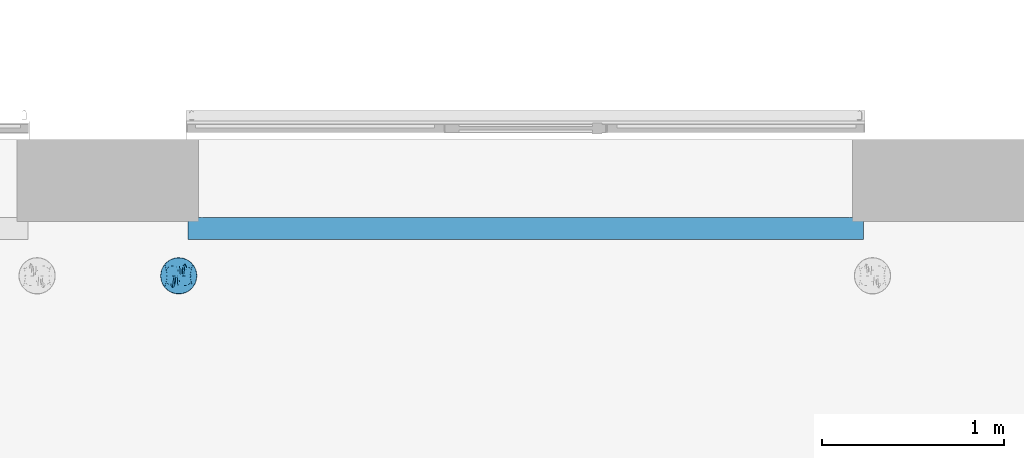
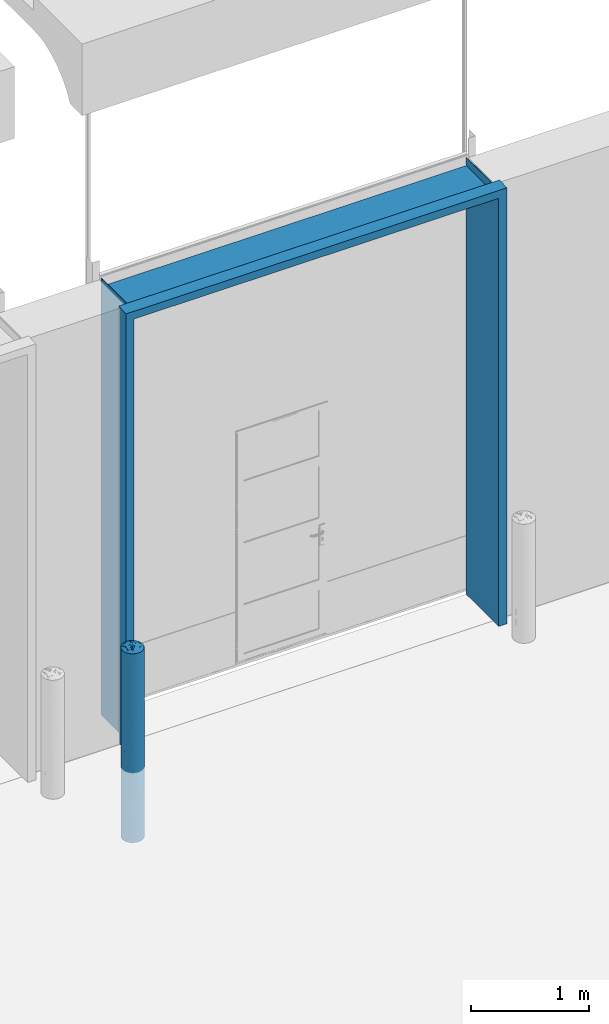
# One storey, part 46 of 77: 2 discrete accessories.
"""IFC2X3 building model written with IfcOpenShell, lengths in millimetres."""

from ifc_helpers import new_model, entity, si_unit, converted_unit, derived_unit, direction, frame, origin, place, context, subcontext, project, spatial, faceted_brep, source, transform, mapped, material, type_object, type_shapes, element, save


model = new_model("IFC2X3")

# Units and contexts
model_context = context("Model", 3, precision=0.01, world=origin(), true_north=direction((6.12303176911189e-17, 1.0)))
body_context = subcontext(model_context, "Body", "Model", "MODEL_VIEW")
ifc_project = project(units=[si_unit("LENGTHUNIT", "METRE", prefix="MILLI"), si_unit("AREAUNIT", "SQUARE_METRE"), si_unit("VOLUMEUNIT", "CUBIC_METRE"), converted_unit("PLANEANGLEUNIT", "DEGREE", entity("IfcRatioMeasure", 0.0174532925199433), si_unit("PLANEANGLEUNIT", "RADIAN"), dimensions=[0, 0, 0, 0, 0, 0, 0]), si_unit("MASSUNIT", "GRAM", prefix="KILO"), derived_unit("MASSDENSITYUNIT", [(si_unit("MASSUNIT", "GRAM", prefix="KILO"), 1), (si_unit("LENGTHUNIT", "METRE"), -3)]), si_unit("TIMEUNIT", "SECOND"), si_unit("FREQUENCYUNIT", "HERTZ"), si_unit("THERMODYNAMICTEMPERATUREUNIT", "DEGREE_CELSIUS"), derived_unit("THERMALTRANSMITTANCEUNIT", [(si_unit("MASSUNIT", "GRAM", prefix="KILO"), 1), (si_unit("THERMODYNAMICTEMPERATUREUNIT", "KELVIN"), -1), (si_unit("TIMEUNIT", "SECOND"), -3)]), derived_unit("VOLUMETRICFLOWRATEUNIT", [(si_unit("LENGTHUNIT", "METRE"), 3), (si_unit("TIMEUNIT", "SECOND"), -1)]), si_unit("ELECTRICCURRENTUNIT", "AMPERE"), si_unit("ELECTRICVOLTAGEUNIT", "VOLT"), si_unit("POWERUNIT", "WATT"), si_unit("FORCEUNIT", "NEWTON", prefix="KILO"), si_unit("ILLUMINANCEUNIT", "LUX"), si_unit("LUMINOUSFLUXUNIT", "LUMEN"), si_unit("LUMINOUSINTENSITYUNIT", "CANDELA"), derived_unit("USERDEFINED", [(si_unit("MASSUNIT", "GRAM", prefix="KILO"), -1), (si_unit("LENGTHUNIT", "METRE"), -2), (si_unit("TIMEUNIT", "SECOND"), 3), (si_unit("LUMINOUSFLUXUNIT", "LUMEN"), 1)]), derived_unit("LINEARVELOCITYUNIT", [(si_unit("LENGTHUNIT", "METRE"), 1), (si_unit("TIMEUNIT", "SECOND"), -1)]), si_unit("PRESSUREUNIT", "PASCAL"), derived_unit("USERDEFINED", [(si_unit("LENGTHUNIT", "METRE"), -2), (si_unit("MASSUNIT", "GRAM", prefix="KILO"), 1), (si_unit("TIMEUNIT", "SECOND"), -2)])], contexts=[model_context])

# Site, building, storey
site_placement = place(None, origin())
site = spatial("IfcSite", under=ifc_project, at=site_placement, Name="Default", CompositionType="ELEMENT")
building_placement = place(site_placement, origin())
building = spatial("IfcBuilding", under=site, at=building_placement, CompositionType="ELEMENT")
storey_placement = place(building_placement, origin())
storey = spatial("IfcBuildingStorey", under=building, at=storey_placement, Name="1. KORRUS", CompositionType="ELEMENT", Elevation=0.0)

# Discrete accessories
ifc_material = material(Name="Default New Material-must-varv")
discrete_accessory_type_1 = type_object("IfcDiscreteAccessoryType", Name="ukse-pollar", material=ifc_material)
shared_shape_1 = source(origin(), body_context, "Body", "Brep", [
    faceted_brep([(83.7498316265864, 0.0, 1211.3118064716), (91.8749158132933, 0.0, 1205.6559032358), (100.0, 0.0, 1200.0), (97.6882221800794, 13.1107435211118, 1200.0), (95.8287421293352, 23.6563789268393, 1200.0), (93.969262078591, 34.2020143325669, 1200.0), (76.9390417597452, 0.0, 1216.05282423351), (63.3022221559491, 75.4406506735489, 1200.0), (62.8416939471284, 39.8030161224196, 1218.4526620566), (69.2436158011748, 37.0764107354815, 1215.9880775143), (-97.6882221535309, 13.110743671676, 1200.0), (-100.0, 0.0, 1200.0), (-91.8749158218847, 0.0, 1205.65590322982), (-83.7498316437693, 0.0, 1211.31180645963), (-76.9390417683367, 0.0, 1216.05282422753), (-93.9692620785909, 34.2020143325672, 1200.0), (-95.8287421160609, 23.6563790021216, 1200.0), (61.6281008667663, 0.0, 1224.0406107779), (76.604444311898, 64.278760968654, 1200.0), (85.2868531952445, 49.2403876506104, 1200.0), (-3.54862814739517, 32.9400963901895, 1234.4920463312), (9.03191194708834, 0.0, 1237.09268012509), (4.40844307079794, 58.3778316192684, 1226.30016518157), (54.6170308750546, 47.6944043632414, 1219.50624940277), (44.627798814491, 0.0, 1230.53414834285), (25.5588463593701, 59.4119136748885, 1223.53680168), (33.6824088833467, 92.5416578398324, 1200.0), (17.3648177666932, 98.4807753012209, 1200.0), (-61.6281008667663, 0.0, 1224.0406107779), (-85.2868531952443, 49.2403876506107, 1200.0), (-70.128251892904, 0.0, 1220.79384199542), (36.1276477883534, 0.0, 1233.78091712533), (43.4209832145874, 50.3665618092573, 1222.6504135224), (70.128251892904, 0.0, 1220.79384199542), (-76.6044443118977, 64.2787609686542, 1200.0), (50.0, 86.6025403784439, 1200.0), (-50.0, 86.6025403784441, 1200.0), (-54.4185160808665, 48.7244133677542, 1219.21017541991), (-43.392270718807, 54.0995868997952, 1221.20165944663), (27.095735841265, 0.0, 1234.88483812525), (35.2622305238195, 66.2009236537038, 1218.09661192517), (-62.8416940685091, 39.8030246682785, 1218.45265938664), (-63.3022221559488, 75.4406506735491, 1200.0), (18.0638238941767, 0.0, 1235.98875912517), (18.4754636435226, 34.2574490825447, 1233.0588958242), (-69.2436179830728, 37.0764202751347, 1215.98807356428), (-53.1279498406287, 0.0, 1227.28737956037), (15.0400910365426, 63.9380091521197, 1223.05106581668), (0.0, 98.4807753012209, 1200.0), (-33.6824088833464, 92.5416578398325, 1200.0), (-31.0939161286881, 53.155099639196, 1224.97270928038), (-21.496736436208, 71.3818883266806, 1218.36002279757), (-27.095735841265, 0.0, 1234.88483812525), (-36.1276477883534, 0.0, 1233.78091712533), (-13.9644320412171, 48.8776365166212, 1229.32055829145), (53.1279498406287, 0.0, 1227.28737956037), (-44.627798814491, 0.0, 1230.53414834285), (-18.0638238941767, 0.0, 1235.98875912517), (-9.03191194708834, 0.0, 1237.09268012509), (-9.80597558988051, 78.5292492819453, 1215.62108797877), (-17.3648177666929, 98.480775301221, 1200.0), (0.0, 0.0, 1238.19660112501), (-97.6882221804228, -13.1107435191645, 1200.0), (-95.8287421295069, -23.6563789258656, 1200.0), (-93.9692620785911, -34.2020143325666, 1200.0), (-63.3022221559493, -75.4406506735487, 1200.0), (-62.8416938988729, -39.8030161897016, 1218.45266205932), (-69.2436157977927, -37.076410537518, 1215.98807757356), (97.6882221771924, -13.110743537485, 1200.0), (93.9692620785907, -34.2020143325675, 1200.0), (95.8287421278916, -23.6563789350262, 1200.0), (-76.6044443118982, -64.2787609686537, 1200.0), (-85.2868531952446, -49.2403876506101, 1200.0), (3.54862829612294, -32.9400954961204, 1234.4920465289), (-4.40844201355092, -58.3778322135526, 1226.30016496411), (-54.6170308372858, -47.6944042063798, 1219.50624947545), (-25.5588462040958, -59.4119134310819, 1223.53680181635), (-33.682408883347, -92.5416578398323, 1200.0), (-17.3648177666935, -98.4807753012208, 1200.0), (-43.4209830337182, -50.3665619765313, 1222.65041351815), (-50.0, -86.6025403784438, 1200.0), (62.8416939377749, -39.803016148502, 1218.45266205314), (54.4185175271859, -48.7244091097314, 1219.21017640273), (63.3022221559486, -75.4406506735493, 1200.0), (85.2868531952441, -49.240387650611, 1200.0), (76.6044443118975, -64.2787609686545, 1200.0), (50.0, -86.6025403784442, 1200.0), (43.3922717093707, -54.0995849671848, 1221.20165990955), (-35.2622303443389, -66.2009242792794, 1218.09661165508), (-18.475463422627, -34.2574489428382, 1233.05889588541), (69.2436157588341, -37.0764105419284, 1215.98807759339), (-15.0400904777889, -63.9380089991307, 1223.05106595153), (0.0, -98.4807753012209, 1200.0), (33.6824088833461, -92.5416578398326, 1200.0), (31.0939160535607, -53.155100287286, 1224.97270904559), (21.4967358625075, -71.3818881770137, 1218.3600229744), (13.9644325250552, -48.8776338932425, 1229.32055915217), (9.80597229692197, -78.5292495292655, 1215.62108807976), (17.3648177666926, -98.480775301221, 1200.0), (0.0, 0.0, 1200.0)], [[[0, 1, 2, 3, 4, 5, 6]], [[7, 8, 9]], [[10, 11, 12, 13, 14, 15, 16]], [[9, 17, 18]], [[17, 19, 18]], [[20, 21, 22]], [[8, 23, 24]], [[25, 26, 27]], [[28, 29, 30]], [[19, 6, 5]], [[31, 23, 32]], [[14, 30, 29]], [[6, 19, 33]], [[29, 28, 34]], [[32, 23, 35]], [[36, 37, 38]], [[39, 32, 40]], [[29, 15, 14]], [[41, 37, 42]], [[43, 44, 21]], [[33, 19, 17]], [[45, 28, 46]], [[42, 37, 36]], [[45, 46, 41]], [[25, 43, 39]], [[47, 22, 44]], [[26, 40, 35]], [[47, 27, 48]], [[49, 50, 51]], [[52, 38, 53]], [[22, 54, 20]], [[39, 31, 32]], [[25, 40, 26]], [[24, 55, 8]], [[35, 23, 7]], [[23, 31, 24]], [[9, 8, 55]], [[23, 8, 7]], [[37, 41, 56]], [[51, 50, 54]], [[38, 52, 50]], [[57, 50, 52]], [[50, 57, 54]], [[38, 49, 36]], [[54, 57, 58]], [[48, 59, 22]], [[38, 37, 53]], [[49, 38, 50]], [[56, 41, 46]], [[56, 53, 37]], [[45, 42, 34]], [[17, 9, 55]], [[7, 9, 18]], [[42, 45, 41]], [[28, 45, 34]], [[47, 44, 25]], [[25, 44, 43]], [[22, 21, 44]], [[25, 27, 47]], [[51, 59, 60]], [[47, 48, 22]], [[39, 40, 25]], [[35, 40, 32]], [[58, 20, 54]], [[20, 58, 61]], [[21, 20, 61]], [[59, 51, 54]], [[49, 51, 60]], [[22, 59, 54]], [[48, 60, 59]], [[13, 12, 11, 62, 63, 64, 14]], [[65, 66, 67]], [[68, 2, 1, 0, 6, 69, 70]], [[67, 28, 71]], [[28, 72, 71]], [[73, 58, 74]], [[66, 75, 56]], [[76, 77, 78]], [[79, 75, 80]], [[53, 75, 79]], [[81, 82, 83]], [[6, 84, 69]], [[84, 17, 85]], [[86, 82, 87]], [[17, 84, 33]], [[52, 79, 88]], [[33, 84, 6]], [[72, 14, 64]], [[57, 89, 58]], [[14, 72, 30]], [[30, 72, 28]], [[90, 17, 55]], [[83, 82, 86]], [[90, 55, 81]], [[76, 57, 52]], [[91, 74, 89]], [[77, 88, 80]], [[91, 78, 92]], [[93, 94, 95]], [[39, 87, 31]], [[74, 96, 73]], [[52, 53, 79]], [[76, 88, 77]], [[56, 46, 66]], [[80, 75, 65]], [[75, 53, 56]], [[67, 66, 46]], [[75, 66, 65]], [[82, 81, 24]], [[95, 94, 96]], [[87, 39, 94]], [[43, 94, 39]], [[94, 43, 96]], [[87, 93, 86]], [[96, 43, 21]], [[92, 97, 74]], [[87, 82, 31]], [[93, 87, 94]], [[24, 81, 55]], [[24, 31, 82]], [[90, 83, 85]], [[28, 67, 46]], [[65, 67, 71]], [[83, 90, 81]], [[17, 90, 85]], [[91, 89, 76]], [[76, 89, 57]], [[74, 58, 89]], [[76, 78, 91]], [[95, 97, 98]], [[91, 92, 74]], [[52, 88, 76]], [[80, 88, 79]], [[21, 73, 96]], [[73, 21, 61]], [[58, 73, 61]], [[97, 95, 96]], [[93, 95, 98]], [[74, 97, 96]], [[92, 98, 97]], [[99, 15, 29]], [[99, 29, 34]], [[99, 34, 42]], [[99, 42, 36]], [[99, 36, 49]], [[99, 49, 60]], [[99, 60, 48]], [[99, 16, 15]], [[99, 10, 16]], [[99, 11, 10]], [[99, 48, 27]], [[99, 27, 26]], [[99, 26, 35]], [[99, 35, 7]], [[99, 7, 18]], [[99, 18, 19]], [[99, 19, 5]], [[99, 5, 4]], [[99, 4, 3]], [[99, 3, 2]], [[99, 2, 68]], [[99, 62, 11]], [[99, 63, 62]], [[99, 64, 63]], [[99, 72, 64]], [[99, 71, 72]], [[99, 65, 71]], [[99, 80, 65]], [[99, 77, 80]], [[99, 78, 77]], [[99, 68, 70]], [[99, 70, 69]], [[99, 69, 84]], [[99, 84, 85]], [[99, 85, 83]], [[99, 83, 86]], [[99, 86, 93]], [[99, 93, 98]], [[99, 98, 92]], [[99, 92, 78]]]),
    faceted_brep([(25.8819045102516, -96.592582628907, 1200.0), (50.0, -86.6025403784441, 1200.0), (70.7106781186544, -70.7106781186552, 1200.0), (86.6025403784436, -50.0, 1200.0), (96.5925826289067, -25.8819045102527, 1200.0), (100.0, 0.0, 1200.0), (96.5925826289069, 25.8819045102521, 1200.0), (86.6025403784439, 50.0, 1200.0), (70.7106781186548, 70.7106781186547, 1200.0), (50.0, 86.6025403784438, 1200.0), (25.8819045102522, 96.5925826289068, 1200.0), (0.0, 100.0, 1200.0), (-25.8819045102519, 96.5925826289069, 1200.0), (-50.0, 86.602540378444, 1200.0), (-70.7106781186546, 70.7106781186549, 1200.0), (-86.6025403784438, 50.0, 1200.0), (-96.5925826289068, 25.8819045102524, 1200.0), (-100.0, 0.0, 1200.0), (-96.5925826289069, -25.8819045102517, 1200.0), (-86.6025403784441, -50.0, 1200.0), (-70.710678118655, -70.7106781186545, 1200.0), (-50.0, -86.6025403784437, 1200.0), (-25.8819045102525, -96.5925826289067, 1200.0), (0.0, -100.0, 1200.0), (0.0, 100.0, -750.0), (25.8819045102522, 96.5925826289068, -750.0), (50.0, 86.6025403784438, -750.0), (70.7106781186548, 70.7106781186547, -750.0), (86.6025403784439, 50.0, -750.0), (96.5925826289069, 25.8819045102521, -750.0), (100.0, 0.0, -750.0), (96.5925826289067, -25.8819045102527, -750.0), (86.6025403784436, -50.0, -750.0), (70.7106781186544, -70.7106781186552, -750.0), (50.0, -86.6025403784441, -750.0), (25.8819045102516, -96.592582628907, -750.0), (0.0, -100.0, -750.0), (-25.8819045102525, -96.5925826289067, -750.0), (-50.0, -86.6025403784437, -750.0), (-70.710678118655, -70.7106781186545, -750.0), (-86.6025403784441, -50.0, -750.0), (-96.5925826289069, -25.8819045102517, -750.0), (-100.0, 0.0, -750.0), (-96.5925826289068, 25.8819045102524, -750.0), (-86.6025403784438, 50.0, -750.0), (-70.7106781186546, 70.7106781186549, -750.0), (-50.0, 86.602540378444, -750.0), (-25.8819045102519, 96.5925826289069, -750.0), (-79.3353340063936, -60.8761429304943, 225.0), (-95.1291375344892, -30.8293235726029, 225.0), (-92.387953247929, -38.2683432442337, -285.980854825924), (-38.2683432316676, -92.3879532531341, -299.59510263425), (-60.8761428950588, -79.3353340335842, -151.214692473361), (55.4391010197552, -83.225633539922, 225.0), (79.335334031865, -60.8761428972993, 225.0), (60.8761429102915, -79.3353340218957, 601.214692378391), (-79.3353340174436, -60.8761429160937, 749.595102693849), (-13.0526192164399, -99.1444861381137, -151.214692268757), (13.0526192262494, -99.1444861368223, -269.40187286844), (4.65337325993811, -99.8916719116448, 225.0), (-19.6480455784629, -98.0507741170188, 225.0), (-38.2683432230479, -92.3879532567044, 749.595102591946), (-38.2683432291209, -92.387953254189, 225.0), (-79.3353340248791, -60.8761429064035, -299.595102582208), (-60.876142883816, -79.3353340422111, 601.214692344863), (79.335334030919, -60.8761428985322, -299.595102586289), (60.8761429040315, -79.3353340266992, -151.214692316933), (-98.5078583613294, -17.2105154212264, -334.254320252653), (-100.0, 0.0, 501.660929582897), (-100.0, 0.0, -51.6552314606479), (-92.3879532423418, -38.2683432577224, 735.980854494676), (-98.507858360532, -17.2105154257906, 784.254320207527), (100.0, 0.0, 501.659108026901), (95.1291375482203, -30.8293235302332, 225.0), (100.0, 0.0, -51.6591080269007), (-55.4391010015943, -83.2256335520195, 225.0), (38.2683432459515, -92.3879532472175, 749.595102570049), (-13.0526192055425, -99.1444861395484, 601.214692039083), (38.2683432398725, -92.3879532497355, -299.595102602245), (92.3879532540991, -38.2683432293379, 735.980854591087), (92.3879532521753, -38.2683432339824, -285.980854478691), (79.335334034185, -60.8761428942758, 749.595102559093), (98.5078583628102, -17.2105154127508, 784.254320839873), (13.0526192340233, -99.1444861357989, 719.401872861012), (98.5078583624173, -17.2105154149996, -334.254320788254), (38.268343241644, -92.3879532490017, 225.0), (98.5078583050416, 17.210515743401, -334.254323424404), (-79.3353340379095, 60.8761428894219, -299.595102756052), (-60.876142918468, 79.3353340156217, -151.214692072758), (79.3353338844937, 60.8761430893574, -299.595101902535), (13.0526191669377, 99.1444861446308, -151.214692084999), (38.2683431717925, 92.3879532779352, -299.595102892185), (19.6480455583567, 98.0507741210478, 225.0), (38.2683431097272, 92.3879533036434, 749.595103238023), (38.2683431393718, 92.3879532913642, 225.0), (-13.0526193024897, 99.1444861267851, 719.401872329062), (66.0410934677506, 75.0904386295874, 225.000002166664), (60.8761427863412, 79.3353341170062, -151.214692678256), (-13.0526192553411, 99.1444861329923, -269.401871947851), (-4.6533732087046, 99.8916719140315, 224.999998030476), (95.1291373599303, 30.829324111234, 225.000013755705), (-92.3879532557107, 38.2683432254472, -285.980854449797), (-98.5078583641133, 17.210515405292, -334.254320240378), (-95.1291375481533, 30.8293235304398, 225.0), (79.3353338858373, 60.8761430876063, 749.595105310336), (92.3879530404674, 38.2683437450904, -285.980851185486), (79.3353338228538, 60.876143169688, 225.000002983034), (-38.2683432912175, 92.3879532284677, 749.595102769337), (92.38795316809, 38.2683434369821, 735.980862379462), (60.8761427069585, 79.3353341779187, 601.214694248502), (13.0526190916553, 99.144486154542, 601.214690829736), (-55.4391010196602, 83.2256335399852, 225.0), (-79.3353340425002, 60.8761428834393, 225.0), (-60.8761429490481, 79.3353339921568, 601.214692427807), (-38.2683432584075, 92.387953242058, -299.595102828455), (-92.3879532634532, 38.268343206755, 735.980854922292), (-79.3353340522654, 60.8761428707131, 749.59510268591), (-98.5078583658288, 17.2105153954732, 784.254320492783), (98.5078583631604, 17.2105154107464, 784.25432452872), (-38.2683432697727, 92.3879532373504, 225.0)], [[[0, 1, 2, 3, 4, 5, 6, 7, 8, 9, 10, 11, 12, 13, 14, 15, 16, 17, 18, 19, 20, 21, 22, 23]], [[24, 25, 26, 27, 28, 29, 30, 31, 32, 33, 34, 35, 36, 37, 38, 39, 40, 41, 42, 43, 44, 45, 46, 47]], [[48, 49, 50]], [[51, 52, 38]], [[53, 54, 55]], [[56, 20, 19]], [[38, 37, 51]], [[57, 58, 59]], [[51, 60, 61, 62]], [[63, 52, 48]], [[64, 56, 48]], [[65, 66, 33]], [[57, 60, 51]], [[41, 40, 50]], [[41, 67, 42]], [[68, 69, 49]], [[40, 39, 63]], [[66, 34, 33]], [[49, 70, 71]], [[72, 73, 74]], [[57, 37, 36]], [[75, 61, 64]], [[1, 0, 76]], [[20, 64, 21]], [[22, 21, 61]], [[61, 77, 22]], [[75, 51, 62, 61]], [[35, 34, 78]], [[58, 36, 35]], [[75, 48, 52]], [[33, 32, 65]], [[54, 73, 79]], [[65, 80, 54]], [[79, 81, 54]], [[79, 82, 4]], [[50, 67, 41]], [[56, 64, 20]], [[4, 82, 5]], [[23, 22, 77]], [[77, 83, 23]], [[31, 80, 32]], [[39, 38, 52]], [[17, 68, 71]], [[42, 67, 69]], [[54, 81, 55]], [[66, 65, 54]], [[30, 74, 84]], [[5, 82, 72]], [[66, 53, 78]], [[55, 2, 1]], [[80, 84, 73]], [[70, 19, 18]], [[3, 2, 81]], [[56, 70, 48]], [[50, 63, 48]], [[36, 58, 57]], [[0, 23, 83]], [[79, 4, 3]], [[76, 55, 1]], [[53, 76, 85, 78]], [[78, 58, 35]], [[85, 83, 59]], [[77, 60, 59]], [[76, 83, 85]], [[58, 78, 85]], [[50, 40, 63]], [[67, 49, 69]], [[71, 70, 18]], [[48, 70, 49]], [[79, 3, 81]], [[82, 73, 72]], [[84, 80, 31]], [[54, 80, 73]], [[57, 51, 37]], [[64, 61, 21]], [[66, 78, 34]], [[83, 76, 0]], [[70, 56, 19]], [[52, 63, 39]], [[80, 65, 32]], [[55, 81, 2]], [[85, 59, 58]], [[83, 77, 59]], [[49, 67, 50]], [[17, 71, 18]], [[49, 71, 68]], [[73, 82, 79]], [[30, 84, 31]], [[73, 84, 74]], [[59, 60, 57]], [[61, 60, 77]], [[48, 75, 64]], [[51, 75, 52]], [[54, 53, 66]], [[76, 53, 55]], [[86, 30, 29]], [[87, 88, 45]], [[28, 27, 89]], [[90, 25, 24]], [[26, 25, 91]], [[91, 92, 93, 94]], [[12, 11, 95]], [[96, 89, 97]], [[90, 98, 99]], [[91, 90, 92]], [[74, 100, 72]], [[101, 102, 103]], [[88, 46, 45]], [[97, 27, 26]], [[8, 7, 104]], [[100, 105, 106]], [[13, 12, 107]], [[7, 6, 108]], [[109, 94, 93]], [[97, 91, 94]], [[10, 9, 93]], [[109, 9, 8]], [[28, 105, 29]], [[93, 110, 10]], [[111, 112, 113]], [[47, 46, 114]], [[96, 104, 106, 89]], [[104, 109, 8]], [[45, 44, 87]], [[112, 103, 115]], [[91, 97, 26]], [[87, 101, 112]], [[115, 116, 112]], [[105, 86, 29]], [[96, 94, 109]], [[16, 117, 17]], [[11, 10, 110]], [[110, 95, 11]], [[15, 14, 116]], [[115, 16, 15]], [[5, 72, 118]], [[112, 116, 113]], [[88, 87, 112]], [[104, 108, 106]], [[88, 111, 114]], [[113, 14, 13]], [[42, 69, 102]], [[17, 117, 68]], [[43, 101, 44]], [[108, 118, 100]], [[115, 117, 16]], [[24, 98, 90]], [[98, 24, 47]], [[68, 103, 69]], [[107, 113, 13]], [[111, 107, 119, 114]], [[114, 98, 47]], [[119, 95, 99]], [[110, 92, 99]], [[107, 95, 119]], [[98, 114, 119]], [[105, 28, 89]], [[86, 100, 74]], [[118, 108, 6]], [[106, 108, 100]], [[115, 15, 116]], [[117, 103, 68]], [[102, 101, 43]], [[112, 101, 103]], [[97, 89, 27]], [[105, 89, 106]], [[108, 104, 7]], [[90, 91, 25]], [[109, 93, 9]], [[88, 114, 46]], [[95, 107, 12]], [[101, 87, 44]], [[113, 116, 14]], [[119, 99, 98]], [[95, 110, 99]], [[100, 86, 105]], [[30, 86, 74]], [[5, 118, 6]], [[100, 118, 72]], [[103, 117, 115]], [[42, 102, 43]], [[103, 102, 69]], [[94, 96, 97]], [[104, 96, 109]], [[99, 92, 90]], [[93, 92, 110]], [[112, 111, 88]], [[107, 111, 113]]]),
])
type_shapes(discrete_accessory_type_1, [shared_shape_1])
discrete_accessory_1_placement = place(storey_placement, frame((25090.0321663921, -750.0, 0.0)))
element("IfcDiscreteAccessory", 1, at=discrete_accessory_1_placement, inside=storey, type_object=discrete_accessory_type_1, material=ifc_material, Name="ukse-pollar:ukse-pollar", ObjectType="ukse-pollar", context=body_context, shape_type="MappedRepresentation", body=[
    mapped(shared_shape_1, transform((0.0, 0.0, 0.0), scale=1.0)),
])
discrete_accessory_type_2 = type_object("IfcDiscreteAccessoryType", Name="akna-ylaplekid3600", material=ifc_material)
shared_shape_2 = source(origin(), body_context, "Body", "Brep", [
    faceted_brep([(-1780.0, 280.0, -440.0), (-1780.0, -270.0, -440.0), (-1784.0, -270.0, -440.0), (-1784.0, 276.0, -440.0), (-1856.0, 276.0, -440.0), (-1856.0, 160.0, -440.0), (-1860.0, 160.0, -440.0), (-1860.0, 280.0, -440.0), (-1780.0, -270.0, 4070.0), (-1780.0, -270.0, 3984.0), (-1780.0, 276.0, 3984.0), (-1780.0, 276.0, 4056.31946847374), (-1780.0, 160.0, 4065.9861351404), (-1780.0, 160.0, 4070.0), (-1784.0, -270.0, 4070.0), (-1780.0, -270.0, 3980.0), (1780.0, -270.0, 3980.0), (1780.0, -270.0, -440.0), (1784.0, -270.0, -440.0), (1784.0, -270.0, 4070.0), (1780.0, -270.0, 4070.0), (1780.0, -270.0, 3984.0), (-1784.0, 160.0, 4070.0), (-1784.0, 160.0, 4065.9861351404), (-1784.0, 276.0, 4056.31946847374), (-1856.0, 276.0, 4056.31946847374), (-1856.0, 160.0, 4065.9861351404), (-1860.0, 160.0, 4070.0), (-1860.0, 280.0, 4060.0), (1860.0, 280.0, 4060.0), (1860.0, 280.0, -440.0), (1780.0, 280.0, -440.0), (1780.0, 280.0, 3980.0), (-1780.0, 280.0, 3980.0), (1780.0, 160.0, 4070.0), (1784.0, 160.0, 4070.0), (1860.0, 160.0, 4070.0), (1780.0, 276.0, 3984.0), (1780.0, 276.0, 4056.31946847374), (1860.0, 160.0, -440.0), (1856.0, 160.0, -440.0), (1856.0, 276.0, -440.0), (1784.0, 276.0, -440.0), (1780.0, 160.0, 4065.9861351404), (1784.0, 276.0, 4056.31946847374), (1784.0, 160.0, 4065.9861351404), (1856.0, 276.0, 4056.31946847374), (1856.0, 160.0, 4065.9861351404)], [[[0, 1, 2, 3, 4, 5, 6, 7]], [[8, 9, 10, 11, 12, 13]], [[14, 2, 1, 15, 16, 17, 18, 19, 20, 21, 9, 8]], [[2, 14, 22, 23, 24, 3]], [[3, 24, 25, 4]], [[4, 25, 26, 5]], [[6, 27, 28, 7]], [[7, 28, 29, 30, 31, 32, 33, 0]], [[13, 34, 35, 36, 29, 28, 27, 22]], [[37, 38, 11, 10]], [[10, 9, 21, 37]], [[32, 16, 15, 33]], [[31, 30, 39, 40, 41, 42, 18, 17]], [[34, 43, 38, 37, 21, 20]], [[42, 44, 45, 35, 19, 18]], [[41, 46, 44, 42]], [[40, 47, 46, 41]], [[30, 29, 36, 39]], [[26, 25, 24, 23]], [[8, 13, 22, 14]], [[39, 36, 35, 45, 47, 40]], [[19, 35, 34, 20]], [[13, 12, 43, 34]], [[5, 26, 23, 22, 27, 6]], [[12, 11, 38, 43]], [[45, 44, 46, 47]], [[17, 16, 32, 31]], [[0, 33, 15, 1]]]),
])
type_shapes(discrete_accessory_type_2, [shared_shape_2])
discrete_accessory_2_placement = place(storey_placement, frame((27000.0241844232, -270.0, 440.0), z_axis=(0.0, 0.0, 1.0), x_axis=(-1.0, 0.0, 0.0)))
element("IfcDiscreteAccessory", 2, at=discrete_accessory_2_placement, inside=storey, type_object=discrete_accessory_type_2, material=ifc_material, Name="akna-ylaplekid_5400-A:akna-ylaplekid3600", ObjectType="akna-ylaplekid3600", context=body_context, shape_type="MappedRepresentation", body=[
    mapped(shared_shape_2, transform((0.0, 0.0, 0.0), scale=1.0)),
])

save(model, "model.ifc")
